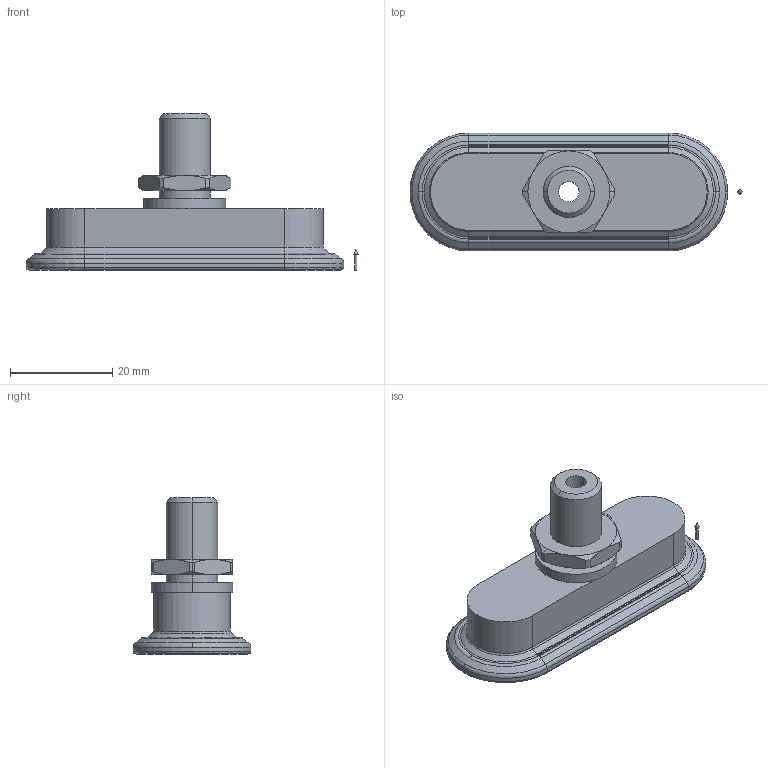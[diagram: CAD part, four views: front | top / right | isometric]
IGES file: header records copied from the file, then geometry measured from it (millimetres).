
Start section: 3D InterOp IGES (v. 2018 1.0.2), Spatial Corp. Copyright (c) 1999-2017.
Global section: file name: schmalz_10_01_05_00382_1m96l7ifigb6br5oxpswmj9ih.igs; native system: Spatial Corp.; preprocessor: 3D InterOp ACIS/IGES; author: TraceParts; organization: TraceParts S.A.; date: 20181030.015811; units: millimetre
Bounding box: 64.8 x 23 x 30.5 mm (x, y, z)
Surface area: 5514.5 mm2 (no closed solid volume)
Topology: 0 solids, 0 shells, 170 faces, 766 edges, 764 vertices
Faces by surface type: revolution 122, extrusion 48
